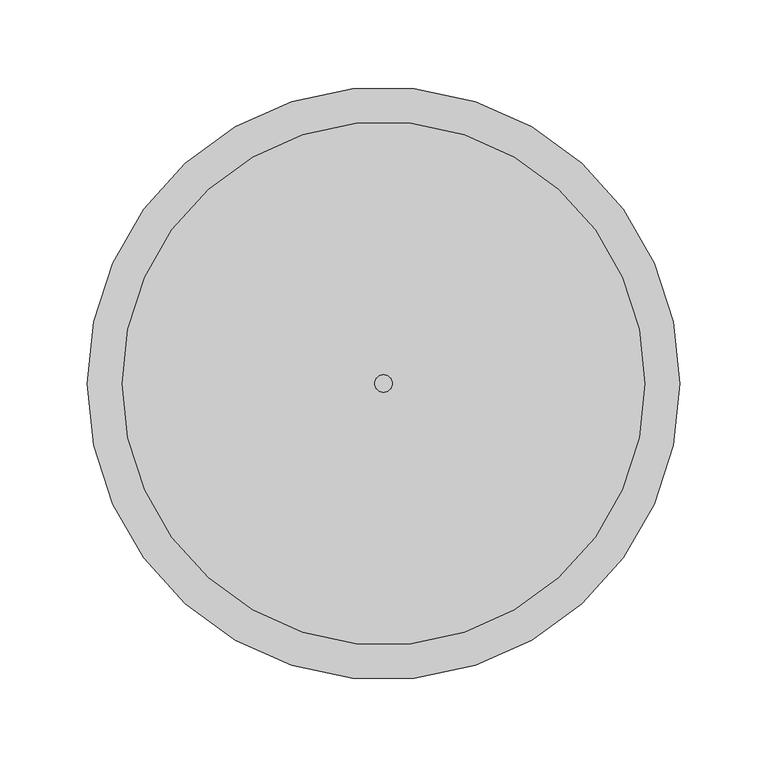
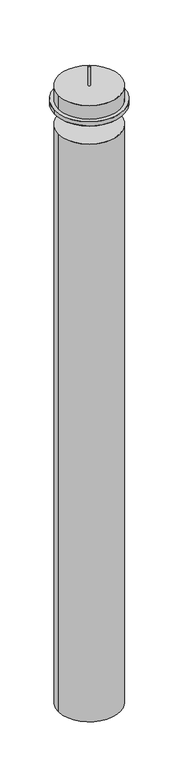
"""IFC4 building model written with IfcOpenShell, lengths in millimetres: proxy geometry, ITA-Palo di fondazione con Amphibia non passante : ITA-Palo di fondazione con Amphibia non passante."""

from ifc_helpers import new_model, si_unit, point, frame, origin, origin_with_axes, origin_2d, place, context, project, spatial, circle_curve, trimmed, segment, composite_curve, outline, extrude, source, transform, mapped, element, save


def generic_models_f891a6ff(model_context):
    return source(origin(), model_context, "Body", "SweptSolid", [
        extrude(outline(composite_curve([segment(trimmed(circle_curve(origin_2d(), 5.0), [point((-5.0, 0.0))], [point((5.0, 0.0))], False, "CARTESIAN"), True, "CONTINUOUS"), segment(trimmed(circle_curve(origin_2d(), 5.0), [point((5.0, 0.0))], [point((-5.0, 0.0))], False, "CARTESIAN"), True, "CONTINUOUS")], self_intersect=False)), origin_with_axes(), (0.0, 0.0, 1.0), 200.0),
        extrude(outline(composite_curve([segment(trimmed(circle_curve(origin_2d(), 170.0), [point((-170.0, 0.0))], [point((170.0, 0.0))], False, "CARTESIAN"), True, "CONTINUOUS"), segment(trimmed(circle_curve(origin_2d(), 170.0), [point((170.0, 0.0))], [point((-170.0, 0.0))], False, "CARTESIAN"), True, "CONTINUOUS")], self_intersect=False), holes=[composite_curve([segment(trimmed(circle_curve(origin_2d(), 150.0), [point((150.0, 0.0))], [point((-150.0, 0.0))], True, "CARTESIAN"), True, "CONTINUOUS"), segment(trimmed(circle_curve(origin_2d(), 150.0), [point((-150.0, 0.0))], [point((150.0, 0.0))], True, "CARTESIAN"), True, "CONTINUOUS")], self_intersect=False)]), frame((0.0, 0.0, 10.0), z_axis=(0.0, 0.0, 1.0), x_axis=(1.0, 0.0, 0.0)), (0.0, 0.0, 1.0), 20.0),
        extrude(outline(composite_curve([segment(trimmed(circle_curve(origin_2d(), 160.0), [point((-160.0, 0.0))], [point((160.0, 0.0))], False, "CARTESIAN"), True, "CONTINUOUS"), segment(trimmed(circle_curve(origin_2d(), 160.0), [point((160.0, 0.0))], [point((-160.0, 0.0))], False, "CARTESIAN"), True, "CONTINUOUS")], self_intersect=False), holes=[composite_curve([segment(trimmed(circle_curve(origin_2d(), 150.0), [point((150.0, 0.0))], [point((-150.0, 0.0))], True, "CARTESIAN"), True, "CONTINUOUS"), segment(trimmed(circle_curve(origin_2d(), 150.0), [point((-150.0, 0.0))], [point((150.0, 0.0))], True, "CARTESIAN"), True, "CONTINUOUS")], self_intersect=False)]), origin_with_axes(), (0.0, 0.0, 1.0), 10.0),
        extrude(outline(composite_curve([segment(trimmed(circle_curve(origin_2d(), 150.0), [point((-150.0, 0.0))], [point((150.0, 0.0))], False, "CARTESIAN"), True, "CONTINUOUS"), segment(trimmed(circle_curve(origin_2d(), 150.0), [point((150.0, 0.0))], [point((-150.0, 0.0))], False, "CARTESIAN"), True, "CONTINUOUS")], self_intersect=False)), frame((0.0, 0.0, -3100.0), z_axis=(0.0, 0.0, 1.0), x_axis=(1.0, 0.0, 0.0)), (0.0, 0.0, 1.0), 3000.0),
        extrude(outline(composite_curve([segment(trimmed(circle_curve(origin_2d(), 150.0), [point((-150.0, 0.0))], [point((150.0, 0.0))], False, "CARTESIAN"), True, "CONTINUOUS"), segment(trimmed(circle_curve(origin_2d(), 150.0), [point((150.0, 0.0))], [point((-150.0, 0.0))], False, "CARTESIAN"), True, "CONTINUOUS")], self_intersect=False)), origin_with_axes(), (0.0, 0.0, 1.0), 100.0),
    ])


if __name__ == "__main__":
    model = new_model("IFC4")
    model_context = context("Model", 3, world=origin())
    ifc_project = project(units=[si_unit("LENGTHUNIT", "METRE", prefix="MILLI")], contexts=[model_context])
    site = spatial("IfcSite", under=ifc_project)
    building = spatial("IfcBuilding", under=site)
    placement = place(None, origin())
    generic_models_shape = generic_models_f891a6ff(model_context)
    element("IfcBuildingElementProxy", 1, Name="ITA-Palo di fondazione con Amphibia non passante : ITA-Palo di fondazione con Amphibia non passante", ObjectType="ITA-Palo di fondazione con Amphibia non passante : ITA-Palo di fondazione con Amphibia non passante", at=placement, inside=building, context=model_context, shape_type="MappedRepresentation", body=[
        mapped(generic_models_shape, transform((0.0, 0.0, 0.0), x_axis=(1.0, 0.0, 0.0), y_axis=(0.0, 1.0, 0.0), z_axis=(0.0, 0.0, 1.0))),
    ])
    save(model, "model.ifc")
